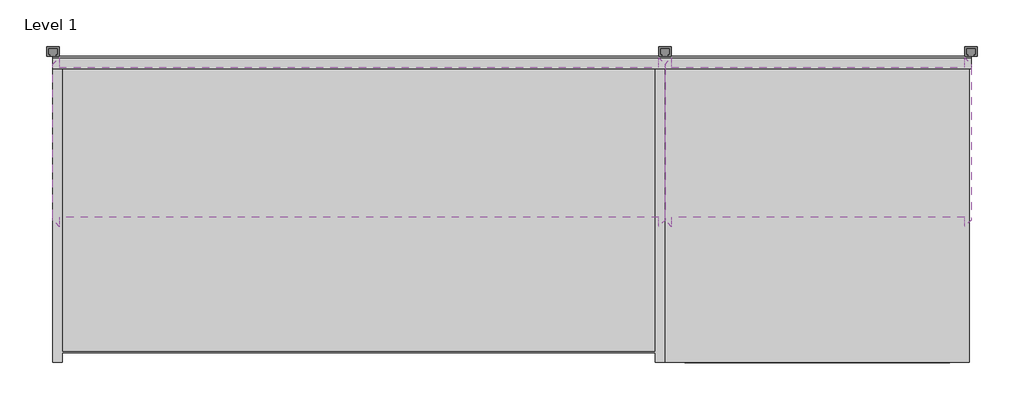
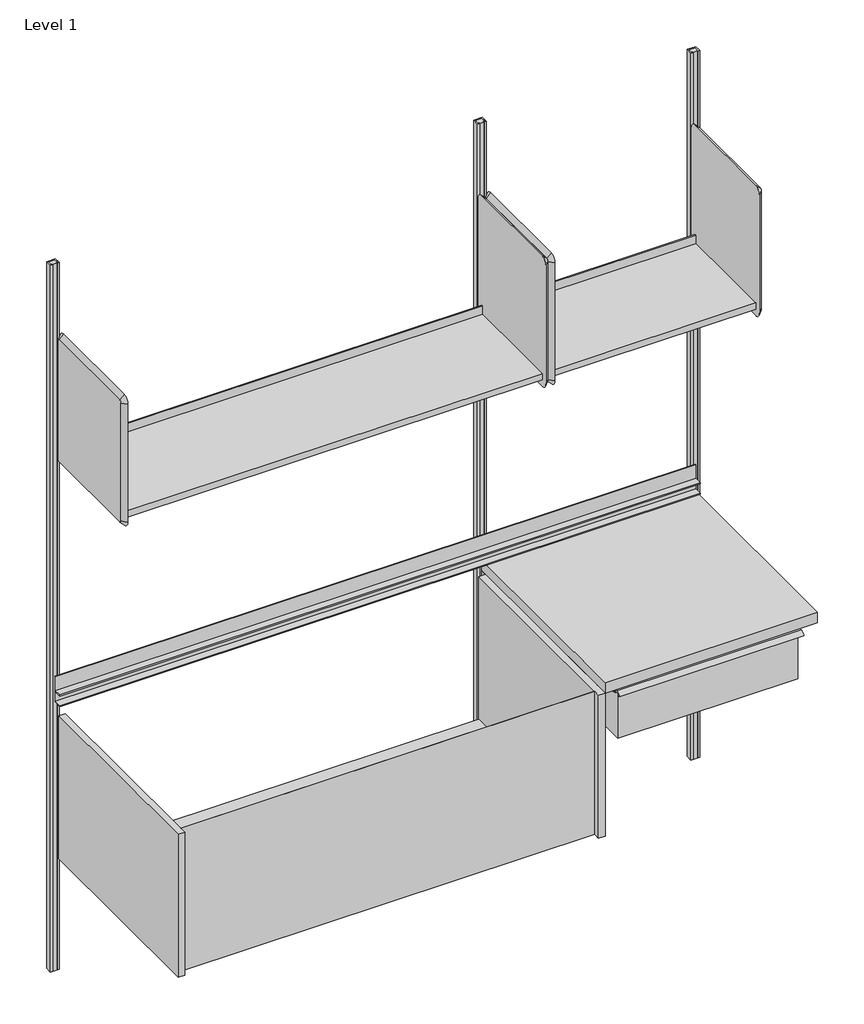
# One storey, incomplete: 10 furniture elements.
"""IFC4 building model written with IfcOpenShell, lengths in millimetres."""

from ifc_helpers import new_model, si_unit, origin, place, context, project, spatial, transform, mapped, element, save
from components import furniture_7f08a233, furniture_d92eedc3, furniture_ea4a19f1, furniture_224c88e3, furniture_8d228605, furniture_fa600c10, furniture_ea425779, b_6_50075038

model = new_model("IFC4")

# Units and contexts
model_context = context("Model", 3, world=origin())
ifc_project = project(units=[si_unit("LENGTHUNIT", "METRE", prefix="MILLI")], contexts=[model_context])

# Site, building, storey
site = spatial("IfcSite", under=ifc_project)
building = spatial("IfcBuilding", under=site)
storey = spatial("IfcBuildingStorey", under=building, Name="Level 1", Elevation=0.0)

# Furniture
placement = place(None, origin())
furniture_shape = furniture_7f08a233(model_context)
element("IfcFurniture", 1, ObjectType="HermanMiller_CoStruc_C2141_Heavy-DutyWorkSurface : 24\"D x 24\"W Lam", at=placement, inside=storey, context=model_context, shape_type="MappedRepresentation", body=[
    mapped(furniture_shape, transform((1522.37694, -196.85, 0.0), x_axis=(1.0, 0.0, 0.0), y_axis=(0.0, 1.0, 0.0), z_axis=(0.0, 0.0, 1.0))),
])
furniture_2_shape = furniture_d92eedc3(model_context)
element("IfcFurniture", 2, ObjectType="HermanMiller_CoStruc_C2910_WorkSurfaceBacksplash : 3\"H x 72\"W", at=placement, inside=storey, context=model_context, shape_type="MappedRepresentation", body=[
    mapped(furniture_2_shape, transform((914.4, -19.05, 31.75), x_axis=(1.0, 0.0, 0.0), y_axis=(0.0, 1.0, 0.0), z_axis=(0.0, 0.0, 1.0))),
])
furniture_3_shape = furniture_ea4a19f1(model_context)
element("IfcFurniture", 3, ObjectType="HermanMiller_CoStruc_C2512_SinkModule : 18\"H x 24\"D x 48\"W", at=placement, inside=storey, context=model_context, shape_type="MappedRepresentation", body=[
    mapped(furniture_3_shape, transform((609.6, -206.375, 0.0), x_axis=(1.0, 0.0, 0.0), y_axis=(0.0, 1.0, 0.0), z_axis=(0.0, 0.0, 1.0))),
])
furniture_4_shape = furniture_224c88e3(model_context)
element("IfcFurniture", 4, ObjectType="HermanMiller_CoStruc_C2140R_WorkSurfaceSupport_ComponentAdaptorReady : 14H x 24D x 24W", at=placement, inside=storey, context=model_context, shape_type="MappedRepresentation", body=[
    mapped(furniture_4_shape, transform((1522.37694, -196.85, 0.0), x_axis=(1.0, 0.0, 0.0), y_axis=(0.0, 1.0, 0.0), z_axis=(0.0, 0.0, 1.0))),
])
furniture_5_shape = furniture_8d228605(model_context)
element("IfcFurniture", 5, ObjectType="HermanMiller_CoStruc_B-StyleShelf : 15-1/2H x 13D x 48W", at=placement, inside=storey, context=model_context, shape_type="MappedRepresentation", body=[
    mapped(furniture_5_shape, transform((733.5420045, -203.2, 457.2), x_axis=(1.0, 0.0, 0.0), y_axis=(0.0, 1.0, 0.0), z_axis=(0.0, 0.0, 1.0))),
])
furniture_6_shape = furniture_fa600c10(model_context)
element("IfcFurniture", 6, ObjectType="HermanMiller_CoStruc_B-StyleShelf : 15-1/2H x 13D x 24W", at=placement, inside=storey, context=model_context, shape_type="MappedRepresentation", body=[
    mapped(furniture_6_shape, transform((1647.9420045, -203.2, 457.2), x_axis=(1.0, 0.0, 0.0), y_axis=(0.0, 1.0, 0.0), z_axis=(0.0, 0.0, 1.0))),
])
furniture_7_shape = furniture_ea425779(model_context)
element("IfcFurniture", 7, ObjectType="HermanMiller_ActionOffice_AO213_WallStrip : 84\"H", at=placement, inside=storey, context=model_context, shape_type="MappedRepresentation", body=[
    mapped(furniture_7_shape, transform((1219.2, 0.0, 0.0), x_axis=(1.0, 0.0, 0.0), y_axis=(0.0, 1.0, 0.0), z_axis=(0.0, 0.0, 1.0))),
])
element("IfcFurniture", 8, ObjectType="HermanMiller_ActionOffice_AO213_WallStrip : 84\"H", at=placement, inside=storey, context=model_context, shape_type="MappedRepresentation", body=[
    mapped(furniture_7_shape, transform((1828.8, 0.0, 0.0), x_axis=(1.0, 0.0, 0.0), y_axis=(0.0, 1.0, 0.0), z_axis=(0.0, 0.0, 1.0))),
])
element("IfcFurniture", 9, ObjectType="HermanMiller_ActionOffice_AO213_WallStrip : 84\"H", at=placement, inside=storey, context=model_context, shape_type="MappedRepresentation", body=[
    mapped(furniture_7_shape, transform((0.0, 0.0, 0.0), x_axis=(1.0, 0.0, 0.0), y_axis=(0.0, 1.0, 0.0), z_axis=(0.0, 0.0, 1.0))),
])
b_6_shape = b_6_50075038(model_context)
element("IfcFurniture", 10, ObjectType="HermanMiller_CoStruc_Drawer : B - 6", at=placement, inside=storey, context=model_context, shape_type="MappedRepresentation", body=[
    mapped(b_6_shape, transform((1522.3095917, -434.975, 152.4), x_axis=(1.0, 0.0, 0.0), y_axis=(0.0, 1.0, 0.0), z_axis=(0.0, 0.0, 1.0))),
])

save(model, "model.ifc")
